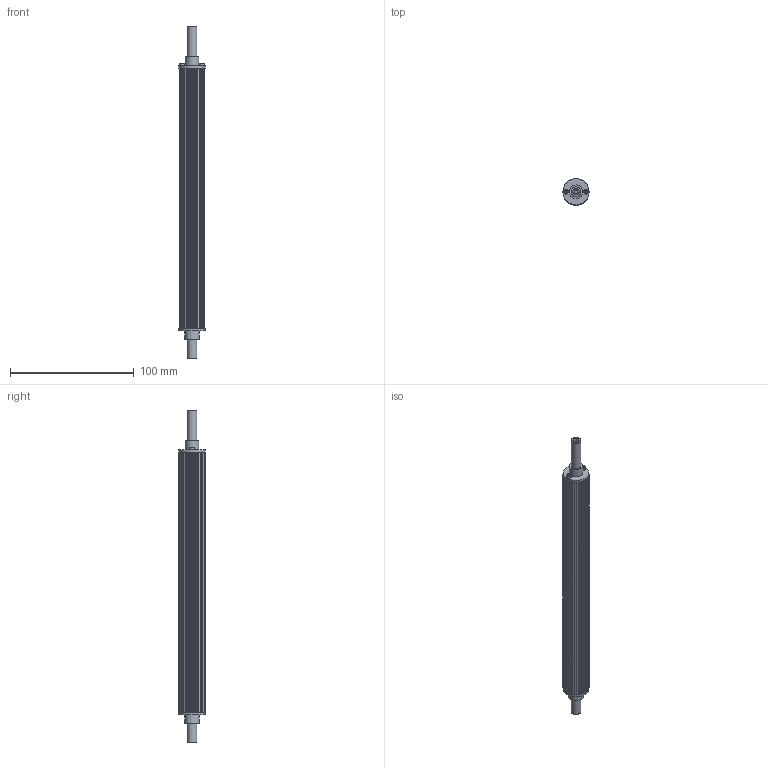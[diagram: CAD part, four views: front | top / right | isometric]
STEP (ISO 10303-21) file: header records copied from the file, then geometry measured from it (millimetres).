
FILE_DESCRIPTION(/* description */ (''),/* implementation_level */ '2;1');
FILE_NAME(/* name */ 'Assieme_cilindro.stp',/* time_stamp */ '2025-09-30T11:17:40+02:00',/* author */ ('Ryzen5700u'),/* organization */ (''),/* preprocessor_version */ 'ST-DEVELOPER v20',/* originating_system */ 'Autodesk Inventor 2025',/* authorisation */ '');
FILE_SCHEMA (('AUTOMOTIVE_DESIGN { 1 0 10303 214 3 1 1 }'));
Length unit declared in the file: millimetre
Products named in the file (5): Assieme_cilindro; cilindro_01_c; perno_cilindro_b; perno_cilindro_a; BS 4168 - M2 x 10
Assembly tree (5 placements, depth 2):
  Assieme_cilindro
    cilindro_01_c
    perno_cilindro_b
    perno_cilindro_a
    BS 4168 - M2 x 10  x2
Bounding box: 21 x 21 x 268 mm (x, y, z)
Volume: 73969.3 mm3; surface area: 33697.4 mm2
Topology: 5 solids, 5 shells, 201 faces, 527 edges, 350 vertices
Faces by surface type: plane 120, cylinder 69, cone 8, torus 4
Full cylindrical faces by diameter (mm): 2 x10, 3.2 x3, 3.8 x2, 5 x2, 8 x2, 11 x2, 12 x4, 21 x2
Entity records: 5962 total; most frequent: CARTESIAN_POINT 1022, DIRECTION 1013, ORIENTED_EDGE 972, EDGE_CURVE 486, AXIS2_PLACEMENT_3D 338, LINE 337, VECTOR 337, VERTEX_POINT 326
